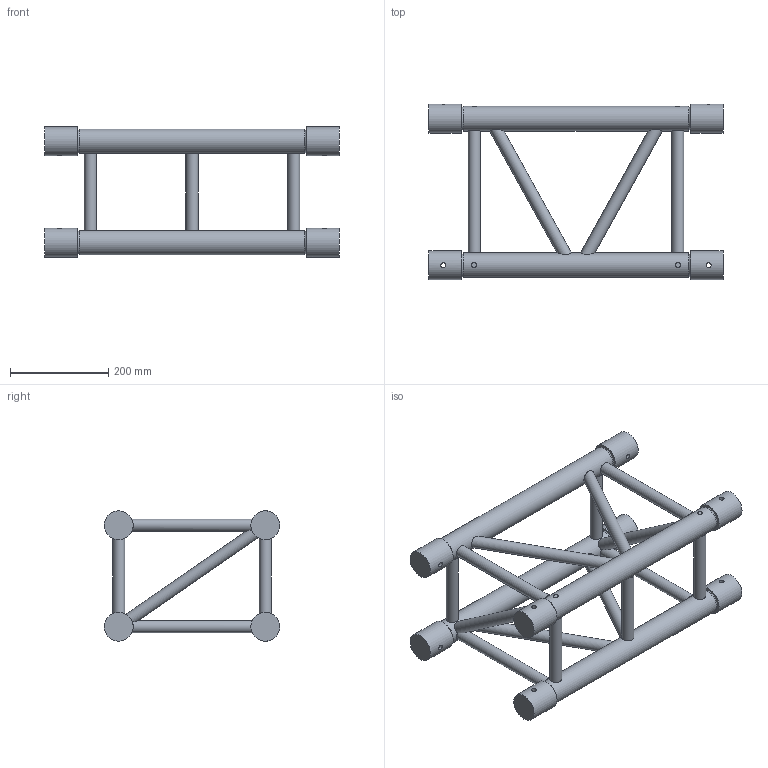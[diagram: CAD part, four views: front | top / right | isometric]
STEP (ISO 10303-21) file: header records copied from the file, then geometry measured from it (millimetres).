
FILE_DESCRIPTION(/* description */ (''),/* implementation_level */ '2;1');
FILE_NAME(/* name */ 'C:\Users\adrian.toca\Desktop\111110042.stp',/* time_stamp */ '2016-09-12T11:58:19+03:00',/* author */ ('adrian.toca'),/* organization */ (''),/* preprocessor_version */ 'ST-DEVELOPER v15.6',/* originating_system */ 'Autodesk Inventor 2015',/* authorisation */ '');
FILE_SCHEMA (('AUTOMOTIVE_DESIGN { 1 0 10303 214 3 1 1 }'));
Length unit declared in the file: millimetre
Products named in the file (1): 260030898
Bounding box: 600 x 357.8 x 265.8 mm (x, y, z)
Volume: 6807602.8 mm3; surface area: 723614.3 mm2
Topology: 7 solids, 11 shells, 173 faces, 327 edges, 188 vertices
Faces by surface type: plane 88, cylinder 77, cone 8
Full cylindrical faces by diameter (mm): 10 x8, 25 x15, 50 x4, 58.8 x8
Entity records: 5505 total; most frequent: CARTESIAN_POINT 2062, DIRECTION 678, ORIENTED_EDGE 576, AXIS2_PLACEMENT_3D 324, EDGE_LOOP 272, EDGE_CURVE 262, VERTEX_POINT 180, STYLED_ITEM 164
